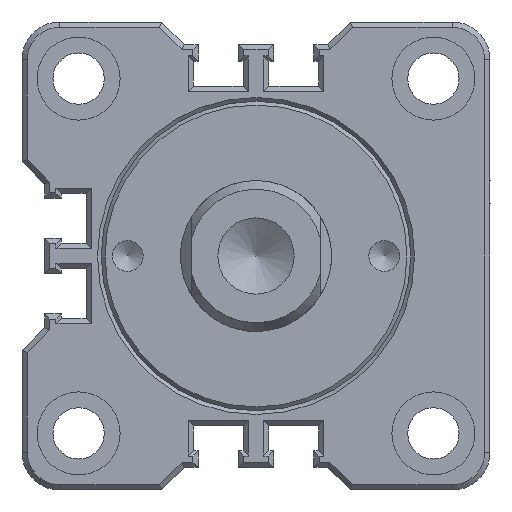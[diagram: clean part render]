
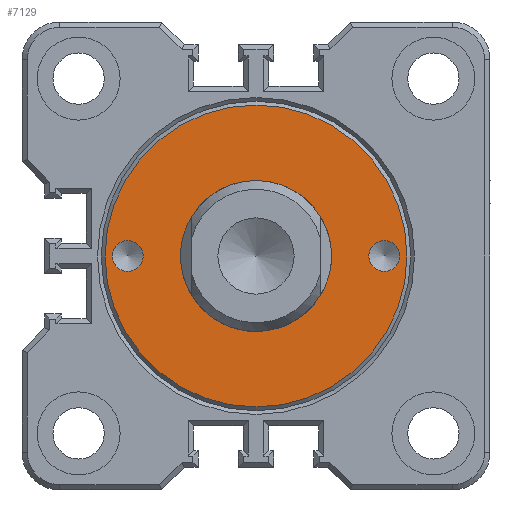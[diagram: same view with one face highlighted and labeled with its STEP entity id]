
A CAD part, front view. The second image highlights one B-rep face of the part: STEP entity #7129.
In plain terms, the highlighted planar face has unit normal (0, -1, 0).
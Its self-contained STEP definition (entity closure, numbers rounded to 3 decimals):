
#65=PLANE('',#7469);
#356=CIRCLE('',#7462,2.05);
#357=CIRCLE('',#7464,10.);
#358=CIRCLE('',#7466,2.05);
#360=CIRCLE('',#7470,20.);
#1707=ORIENTED_EDGE('',*,*,#2929,.T.);
#1708=ORIENTED_EDGE('',*,*,#2928,.F.);
#1709=ORIENTED_EDGE('',*,*,#2927,.T.);
#1710=ORIENTED_EDGE('',*,*,#2955,.T.);
#2927=EDGE_CURVE('',#3574,#3574,#356,.T.);
#2928=EDGE_CURVE('',#3575,#3575,#357,.T.);
#2929=EDGE_CURVE('',#3576,#3576,#358,.T.);
#2955=EDGE_CURVE('',#3596,#3596,#360,.T.);
#3574=VERTEX_POINT('',#9940);
#3575=VERTEX_POINT('',#9943);
#3576=VERTEX_POINT('',#9946);
#3596=VERTEX_POINT('',#10114);
#4083=EDGE_LOOP('',(#1707));
#4084=EDGE_LOOP('',(#1708));
#4085=EDGE_LOOP('',(#1709));
#4086=EDGE_LOOP('',(#1710));
#4469=FACE_BOUND('',#4083,.T.);
#4470=FACE_BOUND('',#4084,.T.);
#4471=FACE_BOUND('',#4085,.T.);
#4472=FACE_BOUND('',#4086,.T.);
#7129=ADVANCED_FACE('',(#4469,#4470,#4471,#4472),#65,.T.);
#7462=AXIS2_PLACEMENT_3D('',#9939,#7968,#7969);
#7464=AXIS2_PLACEMENT_3D('',#9942,#7972,#7973);
#7466=AXIS2_PLACEMENT_3D('',#9945,#7976,#7977);
#7469=AXIS2_PLACEMENT_3D('',#10112,#7982,#7983);
#7470=AXIS2_PLACEMENT_3D('',#10113,#7984,#7985);
#7968=DIRECTION('',(0.,1.,0.));
#7969=DIRECTION('',(0.,0.,-1.));
#7972=DIRECTION('',(0.,-1.,0.));
#7973=DIRECTION('',(1.,0.,0.));
#7976=DIRECTION('',(0.,1.,0.));
#7977=DIRECTION('',(0.,0.,-1.));
#7982=DIRECTION('',(0.,-1.,0.));
#7983=DIRECTION('',(1.,0.,0.));
#7984=DIRECTION('',(0.,-1.,0.));
#7985=DIRECTION('',(0.,0.,-1.));
#9939=CARTESIAN_POINT('',(-17.,0.,0.));
#9940=CARTESIAN_POINT('',(-17.,0.,-2.05));
#9942=CARTESIAN_POINT('',(0.,0.,0.));
#9943=CARTESIAN_POINT('',(10.,0.,0.));
#9945=CARTESIAN_POINT('',(17.,0.,0.));
#9946=CARTESIAN_POINT('',(17.,0.,-2.05));
#10112=CARTESIAN_POINT('',(-26.,0.,26.));
#10113=CARTESIAN_POINT('',(0.,0.,0.));
#10114=CARTESIAN_POINT('',(0.,0.,-20.));
